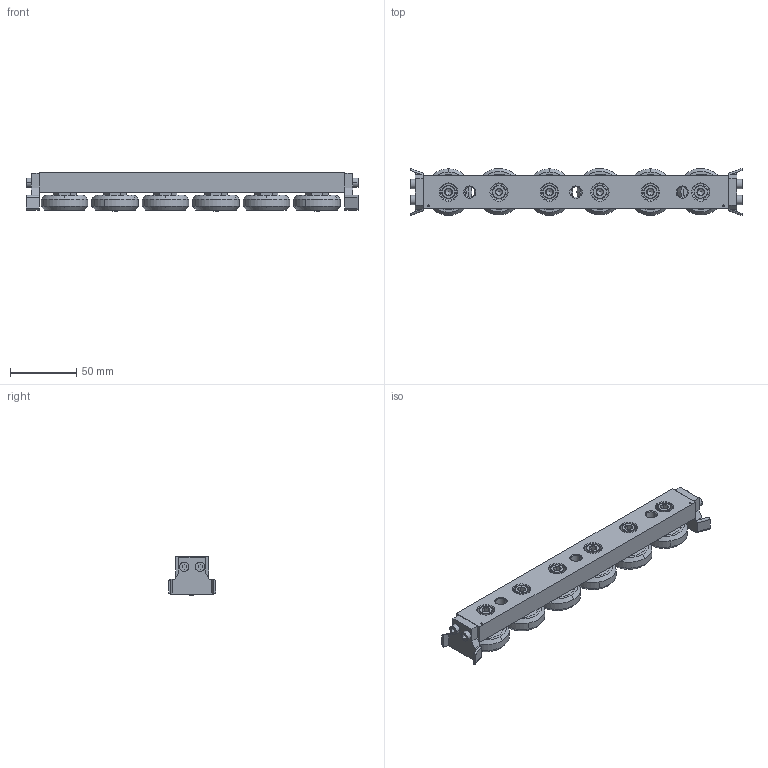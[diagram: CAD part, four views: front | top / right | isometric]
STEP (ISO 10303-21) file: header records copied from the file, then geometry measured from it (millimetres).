
FILE_DESCRIPTION (( 'STEP AP203' ), '1' );
FILE_NAME ('L1943.CSW43-230-2ZUB.step', '2019-03-13T08:19:05', ( '' ), ( '' ), 'SwSTEP 2.0', 'SolidWorks 2017', '' );
FILE_SCHEMA (( 'CONFIG_CONTROL_DESIGN' ));
Length unit declared in the file: millimetre
Products named in the file (6): Part1_L1943.CSW43-230-2ZUB; Part2; Part7; Part8; L1943.CSW43-230-2ZUB; Part3
Assembly tree (15 placements, depth 2):
  L1943.CSW43-230-2ZUB
    Part1_L1943.CSW43-230-2ZUB
    Part8  x6
    Part2  x3
    Part3  x3
    Part7  x2
Bounding box: 250 x 35.47 x 28.88 mm (x, y, z)
Volume: 145450.1 mm3; surface area: 49679.3 mm2
Topology: 15 solids, 15 shells, 565 faces, 1248 edges, 758 vertices
Faces by surface type: plane 248, cone 190, cylinder 106, torus 12, bspline 9
Entity records: 7812 total; most frequent: CARTESIAN_POINT 1416, DIRECTION 1239, ORIENTED_EDGE 1058, EDGE_CURVE 529, AXIS2_PLACEMENT_3D 480, VERTEX_POINT 333, EDGE_LOOP 290, LINE 279
